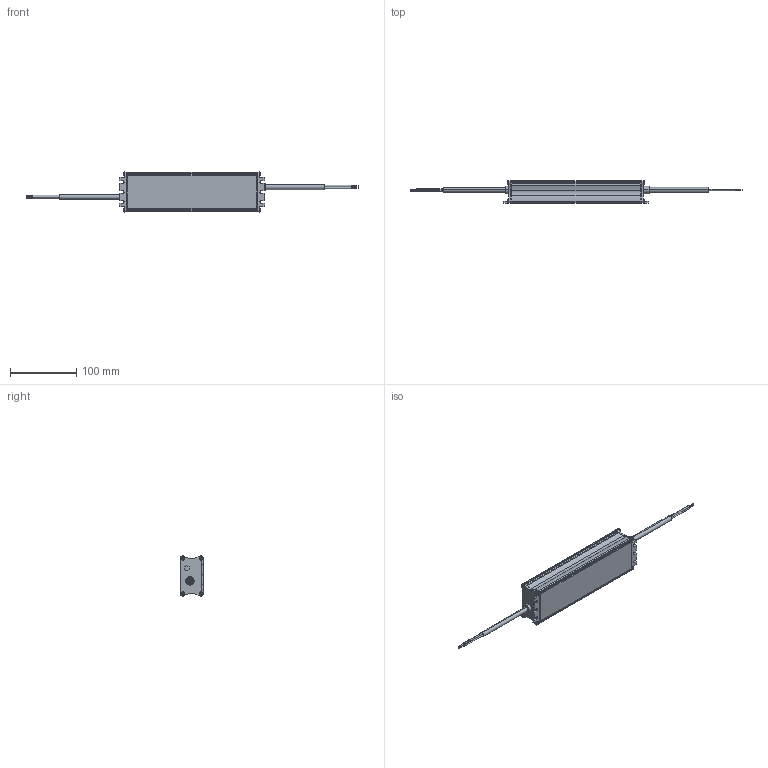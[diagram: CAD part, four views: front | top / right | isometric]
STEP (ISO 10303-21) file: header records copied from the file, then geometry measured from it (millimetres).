
FILE_DESCRIPTION((''),'2;1');
FILE_NAME('00_JPVO-060012FA_ASM','2021-08-06T',('JACKY.LEE'),(''),'CREO PARAMETRIC BY PTC INC, 2018220','CREO PARAMETRIC BY PTC INC, 2018220','');
FILE_SCHEMA(('CONFIG_CONTROL_DESIGN'));
Length unit declared in the file: millimetre
Products named in the file (9): HOUSING_175X60X34_SLIDE; INPUT_SEALANT__90W_; INPUT_CAP__90W_; OUTPUT_SEALANT__90W_; CABLE_OUTPUT_XXXW; CABLE_INPUT_CC_XXXW; T_SCREW_PAN-T3-10L-NI; INPUT_BKT; 00_JPVO-060012FA_ASM
Assembly tree (15 placements, depth 2):
  00_JPVO-060012FA_ASM
    HOUSING_175X60X34_SLIDE
    INPUT_SEALANT__90W_
    INPUT_CAP__90W_
    OUTPUT_SEALANT__90W_
    CABLE_OUTPUT_XXXW
    CABLE_INPUT_CC_XXXW
    T_SCREW_PAN-T3-10L-NI  x8
    INPUT_BKT
Bounding box: 502.4 x 34.6 x 60.7 mm (x, y, z)
Volume: 98756.8 mm3; surface area: 106080.4 mm2
Topology: 15 solids, 15 shells, 1293 faces, 3488 edges, 2304 vertices
Faces by surface type: plane 760, cylinder 252, cone 134, extrusion 61, bspline 48, torus 38
Entity records: 34988 total; most frequent: CARTESIAN_POINT 10014, ORIENTED_EDGE 5268, DIRECTION 4866, EDGE_CURVE 2634, VECTOR 2042, LINE 1981, VERTEX_POINT 1744, AXIS2_PLACEMENT_3D 1412
